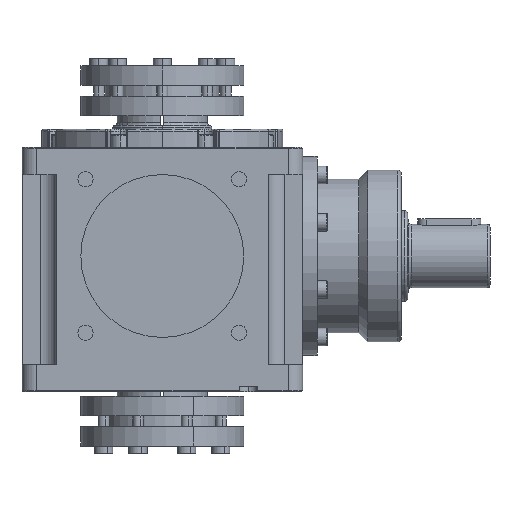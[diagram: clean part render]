
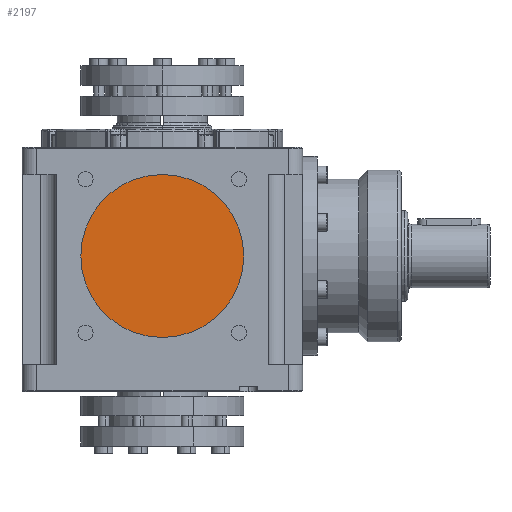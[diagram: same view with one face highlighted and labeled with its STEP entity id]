
A CAD part, left-side view. The second image highlights one B-rep face of the part: STEP entity #2197.
In plain terms, the highlighted planar face has unit normal (-1, 0, 0).
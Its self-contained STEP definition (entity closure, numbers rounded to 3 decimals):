
#29 = EDGE_CURVE ( 'NONE', #12662, #10474, #20632, .T. ) ;
#759 = DIRECTION ( 'NONE',  ( 0., -1., 0. ) ) ;
#1377 = AXIS2_PLACEMENT_3D ( 'NONE', #18378, #18809, #3767 ) ;
#2197 = ADVANCED_FACE ( 'NONE', ( #6683 ), #13915, .T. ) ;
#3767 = DIRECTION ( 'NONE',  ( 0., -1., 0. ) ) ;
#4774 = EDGE_LOOP ( 'NONE', ( #21540, #5302 ) ) ;
#5302 = ORIENTED_EDGE ( 'NONE', *, *, #9022, .T. ) ;
#6683 = FACE_OUTER_BOUND ( 'NONE', #4774, .T. ) ;
#7752 = CIRCLE ( 'NONE', #15464, 45. ) ;
#9022 = EDGE_CURVE ( 'NONE', #10474, #12662, #7752, .T. ) ;
#10411 = CARTESIAN_POINT ( 'NONE',  ( -73.5, 0., 0. ) ) ;
#10474 = VERTEX_POINT ( 'NONE', #19820 ) ;
#11040 = DIRECTION ( 'NONE',  ( -1., 0., 0. ) ) ;
#12662 = VERTEX_POINT ( 'NONE', #14266 ) ;
#13915 = PLANE ( 'NONE',  #20873 ) ;
#14266 = CARTESIAN_POINT ( 'NONE',  ( -73.5, -45., 0. ) ) ;
#15464 = AXIS2_PLACEMENT_3D ( 'NONE', #21461, #11040, #17742 ) ;
#17742 = DIRECTION ( 'NONE',  ( 0., -1., 0. ) ) ;
#18378 = CARTESIAN_POINT ( 'NONE',  ( -73.5, 0., 0. ) ) ;
#18809 = DIRECTION ( 'NONE',  ( -1., 0., 0. ) ) ;
#19087 = DIRECTION ( 'NONE',  ( -1., 0., 0. ) ) ;
#19820 = CARTESIAN_POINT ( 'NONE',  ( -73.5, 45., 0. ) ) ;
#20632 = CIRCLE ( 'NONE', #1377, 45. ) ;
#20873 = AXIS2_PLACEMENT_3D ( 'NONE', #10411, #19087, #759 ) ;
#21461 = CARTESIAN_POINT ( 'NONE',  ( -73.5, 0., 0. ) ) ;
#21540 = ORIENTED_EDGE ( 'NONE', *, *, #29, .T. ) ;
